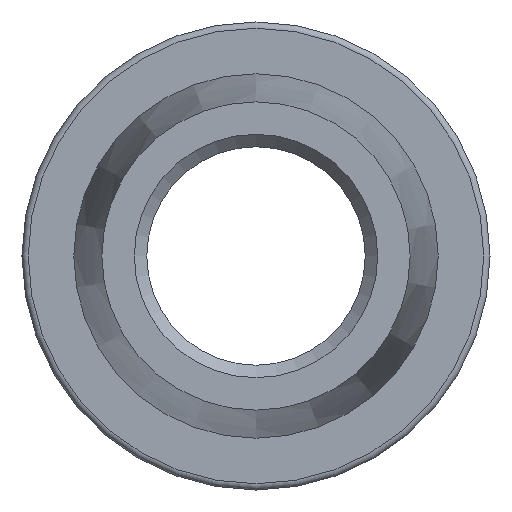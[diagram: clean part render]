
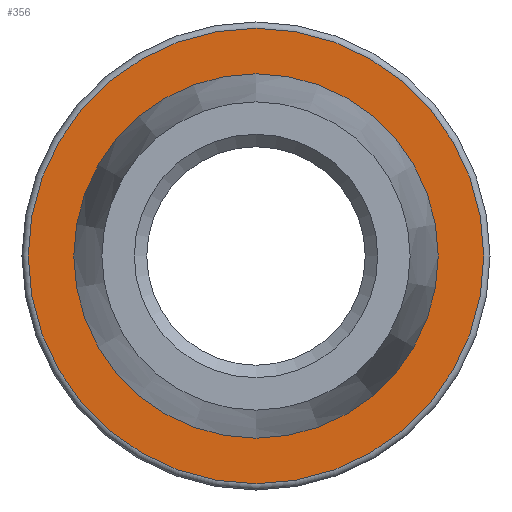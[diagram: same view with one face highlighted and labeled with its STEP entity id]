
A CAD part, front view. The second image highlights one B-rep face of the part: STEP entity #356.
In plain terms, the highlighted planar face has unit normal (0, -1, 0).
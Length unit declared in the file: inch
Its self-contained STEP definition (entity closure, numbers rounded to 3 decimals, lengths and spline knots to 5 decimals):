
#37=FACE_BOUND('',#86,.T.);
#44=PLANE('',#423);
#61=FACE_OUTER_BOUND('',#85,.T.);
#85=EDGE_LOOP('',(#314,#315));
#86=EDGE_LOOP('',(#316,#317));
#136=CIRCLE('',#415,0.1825);
#140=CIRCLE('',#419,0.1825);
#143=CIRCLE('',#424,0.095);
#144=CIRCLE('',#425,0.095);
#175=VERTEX_POINT('',#644);
#176=VERTEX_POINT('',#645);
#181=VERTEX_POINT('',#660);
#182=VERTEX_POINT('',#661);
#220=EDGE_CURVE('',#175,#176,#136,.T.);
#224=EDGE_CURVE('',#176,#175,#140,.T.);
#228=EDGE_CURVE('',#181,#182,#143,.T.);
#229=EDGE_CURVE('',#182,#181,#144,.T.);
#314=ORIENTED_EDGE('',*,*,#220,.F.);
#315=ORIENTED_EDGE('',*,*,#224,.F.);
#316=ORIENTED_EDGE('',*,*,#228,.F.);
#317=ORIENTED_EDGE('',*,*,#229,.F.);
#356=ADVANCED_FACE('',(#61,#37),#44,.T.);
#415=AXIS2_PLACEMENT_3D('',#646,#526,#527);
#419=AXIS2_PLACEMENT_3D('',#652,#534,#535);
#423=AXIS2_PLACEMENT_3D('',#659,#543,#544);
#424=AXIS2_PLACEMENT_3D('',#662,#545,#546);
#425=AXIS2_PLACEMENT_3D('',#663,#547,#548);
#526=DIRECTION('center_axis',(0.,1.,0.));
#527=DIRECTION('ref_axis',(0.,0.,1.));
#534=DIRECTION('center_axis',(0.,1.,0.));
#535=DIRECTION('ref_axis',(0.,0.,1.));
#543=DIRECTION('center_axis',(0.,-1.,0.));
#544=DIRECTION('ref_axis',(0.,0.,-1.));
#545=DIRECTION('center_axis',(0.,-1.,0.));
#546=DIRECTION('ref_axis',(1.,0.,0.));
#547=DIRECTION('center_axis',(0.,-1.,0.));
#548=DIRECTION('ref_axis',(1.,0.,0.));
#644=CARTESIAN_POINT('',(0.,-0.03,-0.1825));
#645=CARTESIAN_POINT('',(0.,-0.03,0.1825));
#646=CARTESIAN_POINT('Origin',(0.,-0.03,0.));
#652=CARTESIAN_POINT('Origin',(0.,-0.03,0.));
#659=CARTESIAN_POINT('Origin',(0.,-0.03,-0.095));
#660=CARTESIAN_POINT('',(0.,-0.03,-0.095));
#661=CARTESIAN_POINT('',(0.,-0.03,0.095));
#662=CARTESIAN_POINT('Origin',(0.,-0.03,0.));
#663=CARTESIAN_POINT('Origin',(0.,-0.03,0.));
